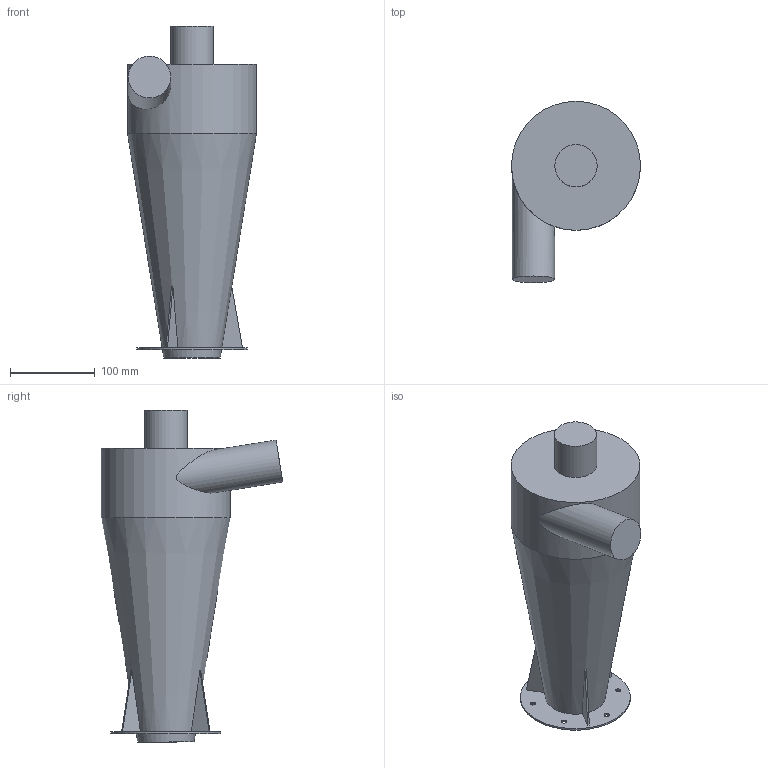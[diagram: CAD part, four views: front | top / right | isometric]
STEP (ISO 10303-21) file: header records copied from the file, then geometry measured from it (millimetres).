
FILE_DESCRIPTION(/* description */ (''),/* implementation_level */ '2;1');
FILE_NAME(/* name */ 'HD_SIMPLE_REV_B.step',/* time_stamp */ '2024-07-04T09:47:54+02:00',/* author */ (''),/* organization */ (''),/* preprocessor_version */ 'ST-DEVELOPER v20',/* originating_system */ 'Autodesk Translation Framework v13.14.0.145',/* authorisation */ '');
FILE_SCHEMA (('AUTOMOTIVE_DESIGN { 1 0 10303 214 3 1 1 }'));
Length unit declared in the file: millimetre
Products named in the file (2): (Non enregistré); HD-VersionSimplifiee
Assembly tree (1 placements, depth 2):
  (Non enregistré)
    HD-VersionSimplifiee
Bounding box: 152.3 x 214.1 x 392 mm (x, y, z)
Volume: 4384757.4 mm3; surface area: 196709.7 mm2
Topology: 1 solids, 1 shells, 27 faces, 63 edges, 42 vertices
Faces by surface type: plane 15, cylinder 10, cone 2
Full cylindrical faces by diameter (mm): 6 x6, 50 x2, 130 x1, 152.3 x1
Entity records: 924 total; most frequent: CARTESIAN_POINT 223, DIRECTION 141, ORIENTED_EDGE 126, EDGE_CURVE 63, AXIS2_PLACEMENT_3D 57, EDGE_LOOP 43, VERTEX_POINT 42, FACE_OUTER_BOUND 27
